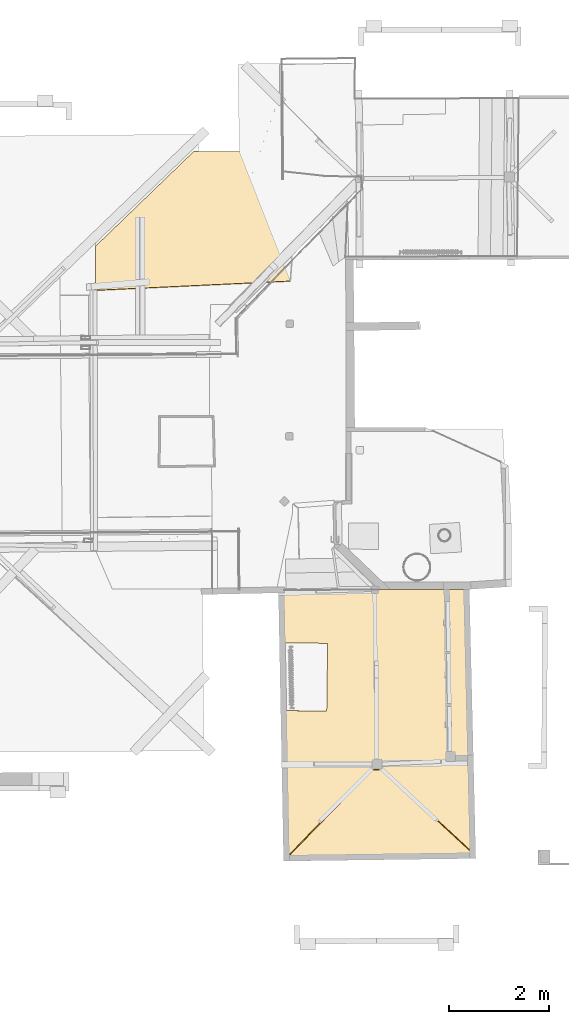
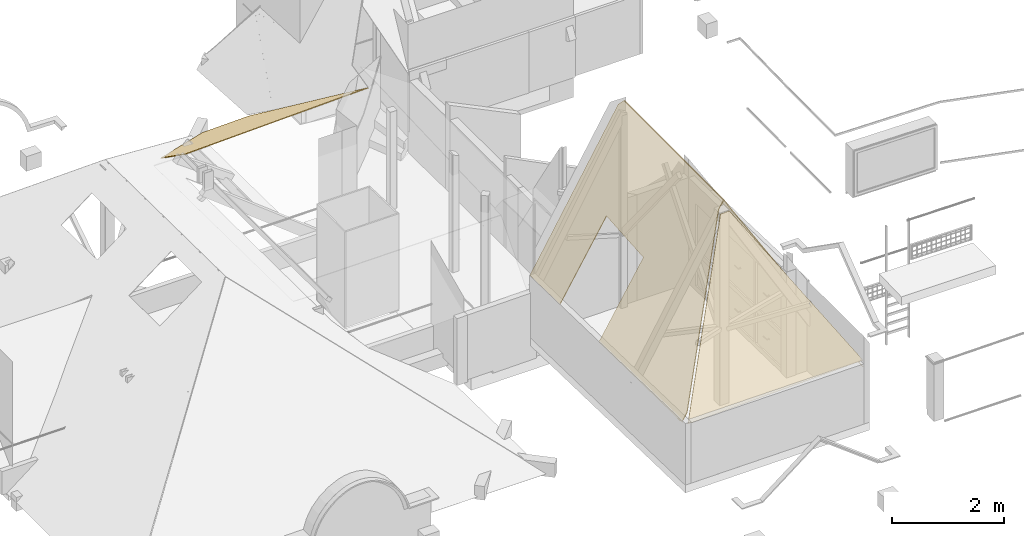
# One storey, part 26 of 39: 3 coverings.
"""IFC2X3 building model written with IfcOpenShell, lengths in centimetres."""

from ifc_helpers import new_model, entity, si_unit, converted_unit, direction, frame, origin, origin_with_axes, place, context, subcontext, project, spatial, faceted_brep, material, element, save


model = new_model("IFC2X3")

# Units and contexts
model_context = context("Model", 3, precision=0.0001, world=origin(), true_north=direction((0.225632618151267, 0.974212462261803, 0.0)))
body_context = subcontext(model_context, "Body", "Model", "MODEL_VIEW")
ifc_project = project(units=[si_unit("LENGTHUNIT", "METRE", prefix="CENTI"), si_unit("AREAUNIT", "SQUARE_METRE", prefix="CENTI"), si_unit("VOLUMEUNIT", "CUBIC_METRE", prefix="CENTI"), converted_unit("PLANEANGLEUNIT", "DEGREE", entity("IfcRatioMeasure", 0.0174532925), si_unit("PLANEANGLEUNIT", "RADIAN"), dimensions=[0, 0, 0, 0, 0, 0, 0])], contexts=[model_context])

# Site, building, storey
site_placement = place(None, origin_with_axes())
site = spatial("IfcSite", under=ifc_project, at=site_placement, Name="Default Site", CompositionType="ELEMENT")
building_placement = place(site_placement, origin_with_axes())
building = spatial("IfcBuilding", under=site, at=building_placement, Name="Default Building", CompositionType="ELEMENT")
storey_placement = place(building_placement, frame((0.0, 0.0, 1088.91037418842), z_axis=(0.0, 0.0, 1.0), x_axis=(1.0, 0.0, 0.0)))
storey = spatial("IfcBuildingStorey", under=building, at=storey_placement, Name="Mezzanine", CompositionType="ELEMENT", Elevation=1088.91037418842)

# Coverings
ifc_material = material(Name="Blanc")
covering_1_placement = place(storey_placement, frame((568.996225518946, -667.682967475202, 251.702416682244), z_axis=(0.0, 0.0, 1.0), x_axis=(1.0, 0.0, 0.0)))
element("IfcCovering", 1, at=covering_1_placement, inside=storey, material=ifc_material, Name="Faux-plafond 1872883", PredefinedType="CEILING", context=body_context, shape_type="Brep", body=[
    faceted_brep([(9.36733611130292, -45.5298563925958, 216.992094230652), (-9.12865273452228, -45.8398350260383, 216.455195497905), (-175.597916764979, -217.38116680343, -80.6631014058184), (190.152944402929, -212.470153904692, -72.1569777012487), (190.152944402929, -211.25771016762, -72.8569963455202), (-175.597916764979, -216.168723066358, -81.3631200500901), (-9.12865273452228, -44.6273912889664, 215.755176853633), (9.36733611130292, -44.3174007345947, 216.292096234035), (9.36733611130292, -44.3174025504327, 216.292097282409), (-9.1286548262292, -44.6273631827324, 215.755232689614), (-9.12865442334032, -45.8397753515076, 216.455219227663), (9.36733571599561, -45.5298504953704, 216.992104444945), (-9.12865273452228, -44.6273943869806, 215.755178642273), (-175.597918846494, -216.168750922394, -81.3631028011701), (-175.597914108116, -217.38115823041, -80.6631078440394), (-9.12864799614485, -45.8398016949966, 216.455173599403), (-175.597916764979, -216.168751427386, -81.3631036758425), (190.15294465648, -211.257714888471, -72.8570045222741), (190.152944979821, -212.470127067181, -72.1570180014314), (-175.597916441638, -217.381163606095, -80.6631171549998), (9.36731605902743, -44.3174079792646, 216.292087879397), (9.36732100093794, -45.5298604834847, 216.992087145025), (190.152939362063, -212.470117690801, -72.1570017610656)], [[[0, 1, 2, 3]], [[4, 5, 6, 7]], [[8, 9, 10, 11]], [[12, 13, 14, 15]], [[16, 17, 18, 19]], [[4, 20, 21, 22]]]),
])
covering_2_placement = place(storey_placement, frame((747.38871850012, -352.071409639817, 254.702416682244), z_axis=(0.0, 0.0, 1.0), x_axis=(1.0, 0.0, 0.0)))
element("IfcCovering", 2, at=covering_2_placement, inside=storey, material=ifc_material, Name="Faux-plafond 1896586", PredefinedType="CEILING", context=body_context, shape_type="Brep", body=[
    faceted_brep([(-375.015924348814, -2.48934704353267, -72.3960168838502), (-373.243277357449, -107.112379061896, -73.1420650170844), (-277.642788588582, -108.37041796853, 87.660569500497), (-279.426907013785, -243.946713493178, 79.8271748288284), (-370.945255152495, -242.742366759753, -74.1091866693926), (-366.045706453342, -531.91430090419, -76.1711254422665), (-355.193723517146, -531.805772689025, -57.9088366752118), (-191.025727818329, -360.302990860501, 224.415165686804), (-181.027144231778, -360.135430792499, 241.24371696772), (-184.731176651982, -9.05231922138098, 247.523476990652), (-191.149601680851, -0.966663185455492, 237.01265453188), (-189.946291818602, -0.941176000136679, 236.297487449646), (-183.527879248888, -9.02683128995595, 246.808288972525), (-179.823833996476, -360.109967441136, 240.52854966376), (-189.822459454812, -360.277528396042, 223.699927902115), (-353.990413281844, -531.780309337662, -58.6240039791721), (-364.842402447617, -531.888837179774, -76.886303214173), (-369.74195114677, -242.716903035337, -74.8243644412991), (-278.223638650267, -243.921251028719, 79.1119370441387), (-276.439491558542, -108.344906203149, 86.9453817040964), (-372.039974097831, -107.086867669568, -73.857242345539), (-373.812620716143, -2.46385948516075, -73.1111944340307), (-373.812649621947, -2.46386009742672, -73.1111772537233), (-372.039965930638, -107.086867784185, -73.8572068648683), (-373.243235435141, -107.112378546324, -73.1420377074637), (-375.01591915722, -2.48934701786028, -72.3960081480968), (-372.039983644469, -107.08686787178, -73.8572366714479), (-276.439545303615, -108.344925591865, 86.9454135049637), (-277.642796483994, -108.370412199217, 87.6605742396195), (-373.243258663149, -107.112354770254, -73.1420759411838), (-276.439545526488, -108.344907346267, 86.9454137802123), (-278.223605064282, -243.921253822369, 79.1119777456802), (-279.426933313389, -243.946713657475, 79.8271836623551), (-277.642798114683, -108.370417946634, 87.6605712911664), (-278.223631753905, -243.921250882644, 79.1119329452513), (-369.741962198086, -242.716913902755, -74.8243579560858), (-370.945236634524, -242.742400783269, -74.1091979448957), (-279.426930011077, -243.946739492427, 79.8271882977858), (-369.74196232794, -242.71690327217, -74.8243577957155), (-364.842420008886, -531.88883743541, -76.886309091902), (-366.045689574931, -531.914300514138, -76.1711400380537), (-370.945231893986, -242.742366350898, -74.1091887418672), (-364.842412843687, -531.888837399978, -76.8862970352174), (-353.990410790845, -531.780252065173, -58.6240057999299), (-355.193708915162, -531.805739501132, -57.9088455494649), (-366.045687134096, -531.914324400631, -76.1711367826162), (-353.990409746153, -531.780309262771, -58.6240060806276), (-189.822453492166, -360.277541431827, 223.699932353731), (-191.02575343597, -360.30299969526, 224.415185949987), (-355.193700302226, -531.805800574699, -57.9088332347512), (-189.822457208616, -360.277528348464, 223.699926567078), (-179.823849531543, -360.109969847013, 240.528558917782), (-181.02714761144, -360.13545735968, 241.243719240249), (-191.025755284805, -360.303016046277, 224.415182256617), (-179.823849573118, -360.109967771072, 240.528558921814), (-183.527908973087, -9.02683239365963, 246.808333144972), (-184.731160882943, -9.05231931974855, 247.523491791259), (-181.02713659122, -360.135431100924, 241.243738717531), (-183.52792061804, -9.02683216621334, 246.808313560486), (-189.946291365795, -0.941174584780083, 236.297488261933), (-191.149586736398, -0.966651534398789, 237.012654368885), (-184.731171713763, -9.05231977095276, 247.523473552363), (-373.812649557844, -2.46386369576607, -73.1111772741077), (-375.015924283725, -2.48935069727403, -72.3960169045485), (-191.149590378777, -0.966663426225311, 237.0126478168)], [[[0, 1, 2, 3, 4, 5, 6, 7, 8, 9, 10]], [[11, 12, 13, 14, 15, 16, 17, 18, 19, 20, 21]], [[22, 23, 24, 25]], [[26, 27, 28, 29]], [[30, 31, 32, 33]], [[34, 35, 36, 37]], [[38, 39, 40, 41]], [[42, 43, 44, 45]], [[46, 47, 48, 49]], [[50, 51, 52, 53]], [[54, 55, 56, 57]], [[58, 59, 60, 61]], [[11, 62, 63, 64]]]),
    faceted_brep([(-173.740599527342, -0.772566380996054, 232.853769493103), (-182.31548273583, -9.02683216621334, 247.705902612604), (-178.611458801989, -360.109967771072, 241.290345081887), (-168.001539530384, -359.752626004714, 222.913426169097), (12.9728451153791, -526.869268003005, -90.543397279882), (1.21821060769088, -0.259179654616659, -70.1837734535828), (0.00579558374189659, -0.259179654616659, -70.8837755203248), (11.7604300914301, -526.869268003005, -91.2433993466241), (-169.213954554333, -359.752626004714, 222.213424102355), (-179.823873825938, -360.109967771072, 240.590343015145), (-183.527909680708, -9.02683216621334, 247.005921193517), (-174.953014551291, -0.772566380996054, 232.153767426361), (-174.953005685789, -0.772566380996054, 232.153772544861), (-183.527916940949, -9.02684744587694, 247.005908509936), (-182.315464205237, -9.02684284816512, 247.705907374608), (-173.740598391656, -0.772571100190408, 232.853767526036), (-183.52792061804, -9.02683216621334, 247.005914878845), (-179.823851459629, -360.109967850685, 240.590360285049), (-178.611439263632, -360.109967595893, 241.290346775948), (-182.31547265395, -9.02683241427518, 247.705922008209), (-179.823849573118, -360.109967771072, 240.590357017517), (-169.21393642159, -359.752659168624, 222.213433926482), (-168.001530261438, -359.752659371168, 222.913430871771), (-178.611443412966, -360.109967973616, 241.290353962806), (-169.213936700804, -359.752626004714, 222.213434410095), (11.7604542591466, -526.869255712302, -91.2433919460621), (12.9728614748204, -526.869251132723, -90.54339682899), (-168.00152948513, -359.752621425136, 222.913429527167), (11.7604514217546, -526.869268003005, -91.2433870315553), (0.00577850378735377, -0.259181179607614, -70.8837459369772), (1.21819066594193, -0.259180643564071, -70.1837593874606), (12.9728635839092, -526.869267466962, -90.5434004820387), (-174.953005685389, -0.772566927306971, 232.153772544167), (-173.740599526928, -0.772566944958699, 232.853769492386), (1.21820174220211, -0.259179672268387, -70.1837785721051)], [[[0, 1, 2, 3, 4, 5]], [[6, 7, 8, 9, 10, 11]], [[12, 13, 14, 15]], [[16, 17, 18, 19]], [[20, 21, 22, 23]], [[24, 25, 26, 27]], [[28, 29, 30, 31]], [[6, 32, 33, 34]]]),
])
covering_3_placement = place(storey_placement, frame((395.727249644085, 263.697115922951, 279.702416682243), z_axis=(0.0, 0.0, 1.0), x_axis=(1.0, 0.0, 0.0)))
element("IfcCovering", 3, at=covering_3_placement, inside=storey, material=ifc_material, Name="Faux-plafond 1780555", PredefinedType="CEILING", context=body_context, shape_type="Brep", body=[
    faceted_brep([(-99.0365233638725, 259.982378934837, -254.768777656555), (-194.136019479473, 259.71166039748, -257.265808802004), (-390.401410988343, 70.33024333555, -129.473619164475), (-390.401410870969, -17.7358606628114, -67.46838955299), (-0.0323498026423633, 0.805759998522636, -69.4907534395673), (3.31612017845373e-06, 7.60457536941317e-06, -70.6351526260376), (-390.369068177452, -18.5416131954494, -68.6127889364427), (-390.369068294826, 69.5244908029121, -130.618018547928), (-194.103690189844, 258.905907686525, -258.41020843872), (-99.00417024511, 259.176626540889, -255.913176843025), (-99.0041699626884, 259.176619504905, -255.913186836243), (-194.103690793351, 258.905909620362, -258.410185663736), (-194.136020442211, 259.711663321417, -257.265772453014), (-99.036523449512, 259.982373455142, -254.768773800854), (-194.103690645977, 258.905919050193, -258.410192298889), (-390.3690670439, 69.5244857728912, -130.618024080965), (-390.401406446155, 70.3302427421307, -129.473613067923), (-194.136024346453, 259.711681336, -257.265785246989), (-390.369068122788, 69.5244865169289, -130.618024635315), (-390.369068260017, -18.5416145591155, -68.6127908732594), (-390.401410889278, -17.7358551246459, -67.4683816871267), (-390.401410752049, 70.3302459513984, -129.473615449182), (-390.369068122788, -18.5416145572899, -68.6127908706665), (3.64691636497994e-06, 1.13773825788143e-06, -70.6351480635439), (-0.0323494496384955, 0.80575461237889, -69.4907346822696), (-390.401410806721, -17.7358607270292, -67.4683777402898), (-99.0041627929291, 259.176621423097, -255.913187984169), (-99.0365083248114, 259.982382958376, -254.768780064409), (-0.0323422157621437, 0.805769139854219, -69.4907447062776)], [[[0, 1, 2, 3, 4]], [[5, 6, 7, 8, 9]], [[10, 11, 12, 13]], [[14, 15, 16, 17]], [[18, 19, 20, 21]], [[22, 23, 24, 25]], [[5, 26, 27, 28]]]),
])

save(model, "model.ifc")
